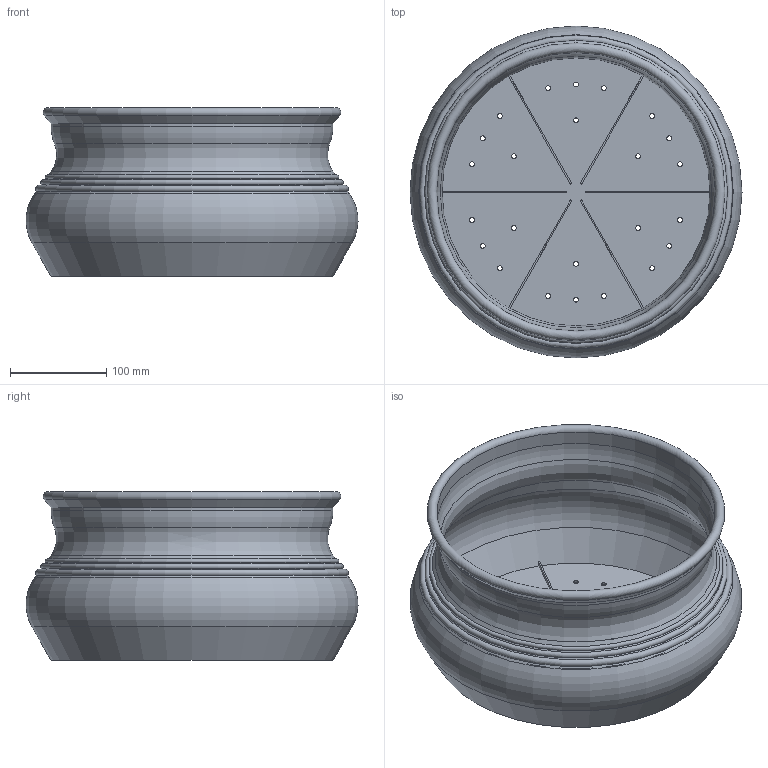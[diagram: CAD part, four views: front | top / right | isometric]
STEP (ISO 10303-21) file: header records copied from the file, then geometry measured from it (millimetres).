
FILE_DESCRIPTION(/* description */ (''),/* implementation_level */ '2;1');
FILE_NAME(/* name */ 'LR2406-S17-H175-D350_step.step',/* time_stamp */ '2024-02-01T11:03:47+01:00',/* author */ (''),/* organization */ (''),/* preprocessor_version */ 'ST-DEVELOPER v20',/* originating_system */ 'Autodesk Translation Framework v12.20.1.177',/* authorisation */ '');
FILE_SCHEMA (('AUTOMOTIVE_DESIGN { 1 0 10303 214 3 1 1 }'));
Length unit declared in the file: millimetre
Products named in the file (1): LR2406-S17-H175-D350
Bounding box: 344.69 x 344.69 x 175 mm (x, y, z)
Volume: 565332.9 mm3; surface area: 525525.2 mm2
Topology: 1 solids, 1 shells, 70 faces, 185 edges, 117 vertices
Faces by surface type: cylinder 32, plane 20, torus 10, cone 8
Full cylindrical faces by diameter (mm): 5 x24, 289.36 x1, 292.72 x1
Entity records: 2336 total; most frequent: DIRECTION 430, CARTESIAN_POINT 373, ORIENTED_EDGE 370, EDGE_CURVE 185, AXIS2_PLACEMENT_3D 174, EDGE_LOOP 118, VERTEX_POINT 117, CIRCLE 103
